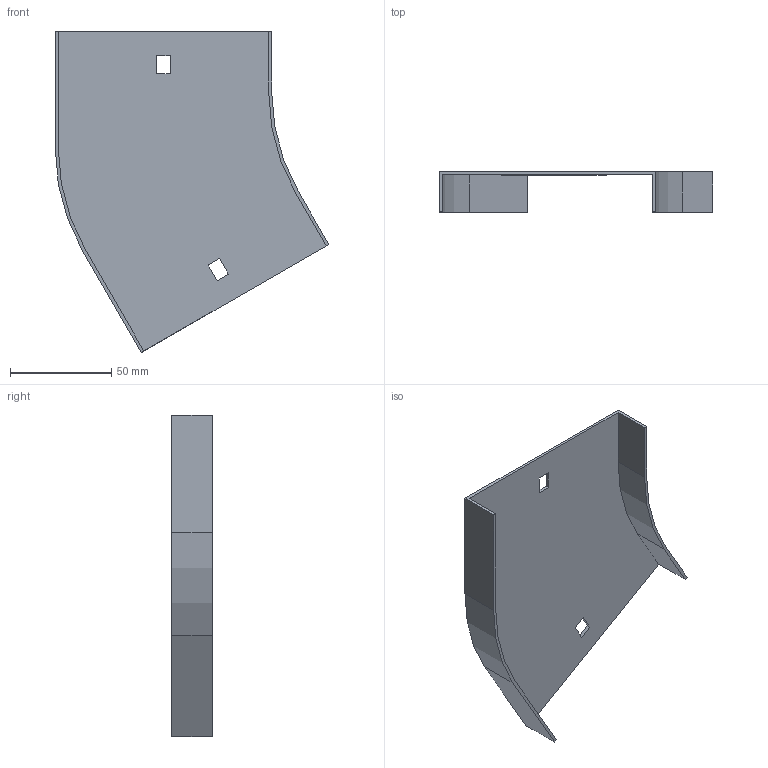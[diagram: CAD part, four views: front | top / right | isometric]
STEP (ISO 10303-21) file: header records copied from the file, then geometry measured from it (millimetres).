
FILE_DESCRIPTION (( 'STEP AP214' ), '1' );
FILE_NAME ('12G1P100.step', '2025-02-21T12:45:16', ( '' ), ( '' ), 'SwSTEP 2.0', 'SolidWorks 2023', '' );
FILE_SCHEMA (( 'AUTOMOTIVE_DESIGN' ));
Length unit declared in the file: millimetre
Products named in the file (1): 12G1P100
Bounding box: 135.2 x 20 x 158.73 mm (x, y, z)
Volume: 30305.3 mm3; surface area: 41352.8 mm2
Topology: 1 solids, 1 shells, 26 faces, 72 edges, 48 vertices
Faces by surface type: plane 22, cylinder 4
Entity records: 855 total; most frequent: CARTESIAN_POINT 147, ORIENTED_EDGE 144, DIRECTION 134, EDGE_CURVE 72, VECTOR 64, LINE 64, VERTEX_POINT 48, AXIS2_PLACEMENT_3D 35
